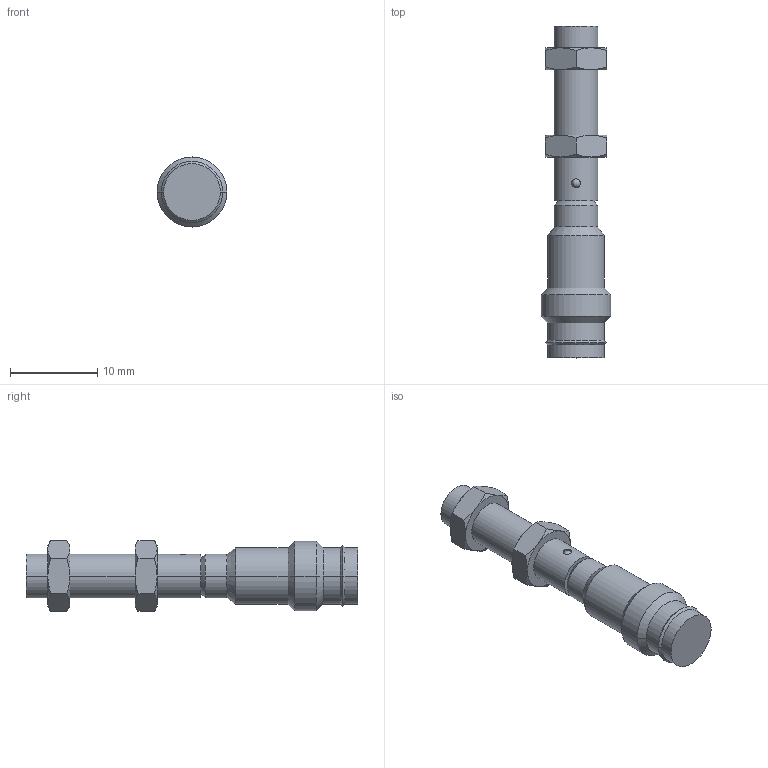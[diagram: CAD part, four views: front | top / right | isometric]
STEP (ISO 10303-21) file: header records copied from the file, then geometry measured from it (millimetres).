
FILE_DESCRIPTION(/* description */ (''),/* implementation_level */ '2;1');
FILE_NAME(/* name */ 'web_IS205MM_1E5_S8.stp',/* time_stamp */ '2012-11-16T09:39:32+01:00',/* author */ (''),/* organization */ (''),/* preprocessor_version */ 'ST-DEVELOPER v11',/* originating_system */ 'SIEMENS UGS NX 6.0',/* authorisation */ '');
FILE_SCHEMA (('CONFIG_CONTROL_DESIGN'));
Length unit declared in the file: millimetre
Products named in the file (1): IS_205MM__1E5_S8_igs
Bounding box: 8 x 38 x 8.08 mm (x, y, z)
Volume: 1109.2 mm3; surface area: 894.2 mm2
Topology: 1 solids, 1 shells, 74 faces, 156 edges, 88 vertices
Faces by surface type: cone 36, plane 19, cylinder 18, sphere 1
Entity records: 2694 total; most frequent: CARTESIAN_POINT 1097, DIRECTION 316, ORIENTED_EDGE 308, EDGE_CURVE 154, AXIS2_PLACEMENT_3D 137, VERTEX_POINT 88, EDGE_LOOP 80, ADVANCED_FACE 74
